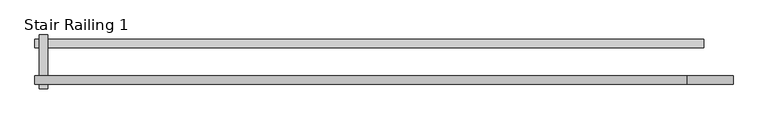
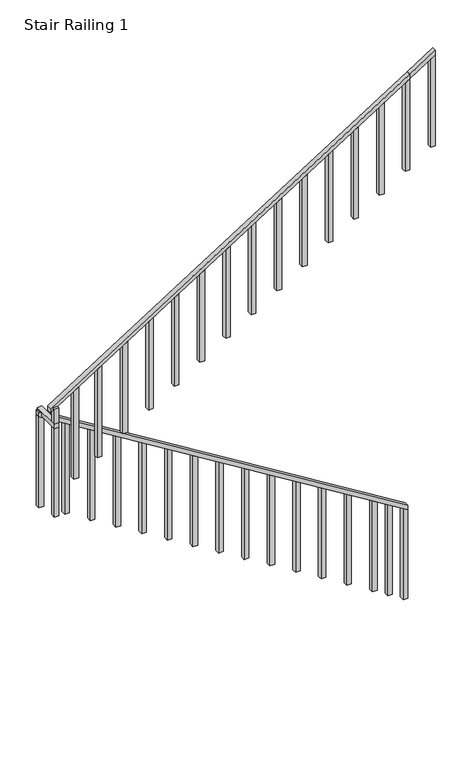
"""IFC4 building model written with IfcOpenShell, lengths in millimetres: railing geometry, Stair Railing 1."""

from ifc_helpers import new_model, si_unit, frame, origin, place, context, project, spatial, polyline, outline, extrude, source, transform, mapped, element, save


def stair_railing_1_a5e15ff2(model_context):
    return source(origin(), model_context, "Body", "SweptSolid", [
        extrude(outline(polyline([(3721.5096774, -66070.520296), (3670.7096774, -66070.520296), (1192.9806452, -62054.8461136), (1243.7806452, -62054.8461136), (3721.5096774, -66070.520296)])), frame((0.0, 32657.381749, 0.0), z_axis=(0.0, 1.0, 0.0), x_axis=(0.0, 0.0, 1.0)), (0.0, 0.0, 1.0), 50.8),
        extrude(outline(polyline([(1224.3249797, -62105.6461136), (176.9806452, -62105.6461136), (176.9806452, -62054.8461136), (1192.9806452, -62054.8461136), (1224.3249797, -62105.6461136)])), frame((0.0, 32657.381749, 0.0), z_axis=(0.0, 1.0, 0.0), x_axis=(0.0, 0.0, 1.0)), (0.0, 0.0, 1.0), 50.8),
        extrude(outline(polyline([(1326.95737, -62271.9832048), (279.6130355, -62271.9832048), (279.6130355, -62221.1832048), (1295.6130355, -62221.1832048), (1326.95737, -62271.9832048)])), frame((0.0, 32657.381749, 0.0), z_axis=(0.0, 1.0, 0.0), x_axis=(0.0, 0.0, 1.0)), (0.0, 0.0, 1.0), 50.8),
        extrude(outline(polyline([(1429.5897603, -62438.320296), (382.2454257, -62438.320296), (382.2454257, -62387.520296), (1398.2454257, -62387.520296), (1429.5897603, -62438.320296)])), frame((0.0, 32657.381749, 0.0), z_axis=(0.0, 1.0, 0.0), x_axis=(0.0, 0.0, 1.0)), (0.0, 0.0, 1.0), 50.8),
        extrude(outline(polyline([(1601.9836, -62717.720296), (554.6392655, -62717.720296), (554.6392655, -62666.920296), (1570.6392655, -62666.920296), (1601.9836, -62717.720296)])), frame((0.0, 32657.381749, 0.0), z_axis=(0.0, 1.0, 0.0), x_axis=(0.0, 0.0, 1.0)), (0.0, 0.0, 1.0), 50.8),
        extrude(outline(polyline([(1774.3774398, -62997.120296), (727.0331053, -62997.120296), (727.0331053, -62946.320296), (1743.0331053, -62946.320296), (1774.3774398, -62997.120296)])), frame((0.0, 32657.381749, 0.0), z_axis=(0.0, 1.0, 0.0), x_axis=(0.0, 0.0, 1.0)), (0.0, 0.0, 1.0), 50.8),
        extrude(outline(polyline([(1946.7712796, -63276.520296), (899.4269451, -63276.520296), (899.4269451, -63225.720296), (1915.4269451, -63225.720296), (1946.7712796, -63276.520296)])), frame((0.0, 32657.381749, 0.0), z_axis=(0.0, 1.0, 0.0), x_axis=(0.0, 0.0, 1.0)), (0.0, 0.0, 1.0), 50.8),
        extrude(outline(polyline([(2119.1651194, -63555.920296), (1071.8207849, -63555.920296), (1071.8207849, -63505.120296), (2087.8207849, -63505.120296), (2119.1651194, -63555.920296)])), frame((0.0, 32657.381749, 0.0), z_axis=(0.0, 1.0, 0.0), x_axis=(0.0, 0.0, 1.0)), (0.0, 0.0, 1.0), 50.8),
        extrude(outline(polyline([(2291.5589592, -63835.320296), (1244.2146247, -63835.320296), (1244.2146247, -63784.520296), (2260.2146247, -63784.520296), (2291.5589592, -63835.320296)])), frame((0.0, 32657.381749, 0.0), z_axis=(0.0, 1.0, 0.0), x_axis=(0.0, 0.0, 1.0)), (0.0, 0.0, 1.0), 50.8),
        extrude(outline(polyline([(2463.9527989, -64114.720296), (1416.6084644, -64114.720296), (1416.6084644, -64063.920296), (2432.6084644, -64063.920296), (2463.9527989, -64114.720296)])), frame((0.0, 32657.381749, 0.0), z_axis=(0.0, 1.0, 0.0), x_axis=(0.0, 0.0, 1.0)), (0.0, 0.0, 1.0), 50.8),
        extrude(outline(polyline([(2636.3466387, -64394.120296), (1589.0023042, -64394.120296), (1589.0023042, -64343.320296), (2605.0023042, -64343.320296), (2636.3466387, -64394.120296)])), frame((0.0, 32657.381749, 0.0), z_axis=(0.0, 1.0, 0.0), x_axis=(0.0, 0.0, 1.0)), (0.0, 0.0, 1.0), 50.8),
        extrude(outline(polyline([(2808.7404785, -64673.520296), (1761.396144, -64673.520296), (1761.396144, -64622.720296), (2777.396144, -64622.720296), (2808.7404785, -64673.520296)])), frame((0.0, 32657.381749, 0.0), z_axis=(0.0, 1.0, 0.0), x_axis=(0.0, 0.0, 1.0)), (0.0, 0.0, 1.0), 50.8),
        extrude(outline(polyline([(2981.1343183, -64952.920296), (1933.7899838, -64952.920296), (1933.7899838, -64902.120296), (2949.7899838, -64902.120296), (2981.1343183, -64952.920296)])), frame((0.0, 32657.381749, 0.0), z_axis=(0.0, 1.0, 0.0), x_axis=(0.0, 0.0, 1.0)), (0.0, 0.0, 1.0), 50.8),
        extrude(outline(polyline([(3153.5281581, -65232.320296), (2106.1838236, -65232.320296), (2106.1838236, -65181.520296), (3122.1838236, -65181.520296), (3153.5281581, -65232.320296)])), frame((0.0, 32657.381749, 0.0), z_axis=(0.0, 1.0, 0.0), x_axis=(0.0, 0.0, 1.0)), (0.0, 0.0, 1.0), 50.8),
        extrude(outline(polyline([(3325.9219979, -65511.720296), (2278.5776633, -65511.720296), (2278.5776633, -65460.920296), (3294.5776633, -65460.920296), (3325.9219979, -65511.720296)])), frame((0.0, 32657.381749, 0.0), z_axis=(0.0, 1.0, 0.0), x_axis=(0.0, 0.0, 1.0)), (0.0, 0.0, 1.0), 50.8),
        extrude(outline(polyline([(3498.3158376, -65791.120296), (2450.9715031, -65791.120296), (2450.9715031, -65740.320296), (3466.9715031, -65740.320296), (3498.3158376, -65791.120296)])), frame((0.0, 32657.381749, 0.0), z_axis=(0.0, 1.0, 0.0), x_axis=(0.0, 0.0, 1.0)), (0.0, 0.0, 1.0), 50.8),
        extrude(outline(polyline([(3670.7096774, -66070.520296), (2623.3653429, -66070.520296), (2623.3653429, -66019.720296), (3639.3653429, -66019.720296), (3670.7096774, -66070.520296)])), frame((0.0, 32657.381749, 0.0), z_axis=(0.0, 1.0, 0.0), x_axis=(0.0, 0.0, 1.0)), (0.0, 0.0, 1.0), 50.8),
        extrude(outline(polyline([(-65994.320296, 32412.2982705), (-66045.120296, 32412.2982705), (-66045.120296, 32733.581749), (-65994.320296, 32733.581749), (-65994.320296, 32412.2982705)])), frame((0.0, 0.0, 3670.7096774), z_axis=(0.0, 0.0, 1.0), x_axis=(1.0, 0.0, 0.0)), (0.0, 0.0, 1.0), 50.8),
        extrude(outline(polyline([(-66045.120296, 32463.0982705), (-65994.320296, 32463.0982705), (-65994.320296, 32412.2982705), (-66045.120296, 32412.2982705), (-66045.120296, 32463.0982705)])), frame((0.0, 0.0, 2654.7096774), z_axis=(0.0, 0.0, 1.0), x_axis=(1.0, 0.0, 0.0)), (0.0, 0.0, 1.0), 1243.7806452),
        extrude(outline(polyline([(6325.4193548, -62158.920296), (6376.2193548, -62158.920296), (3898.4903226, -66070.520296), (3847.6903226, -66070.520296), (6325.4193548, -62158.920296)])), frame((0.0, 32437.6982705, 0.0), z_axis=(0.0, 1.0, 0.0), x_axis=(0.0, 0.0, 1.0)), (0.0, 0.0, 1.0), 50.8),
        extrude(outline(polyline([(4008.5818182, -65816.520296), (2992.5818182, -65816.520296), (2992.5818182, -65765.720296), (4040.7601173, -65765.720296), (4008.5818182, -65816.520296)])), frame((0.0, 32437.6982705, 0.0), z_axis=(0.0, 1.0, 0.0), x_axis=(0.0, 0.0, 1.0)), (0.0, 0.0, 1.0), 50.8),
        extrude(outline(polyline([(4169.4733138, -65562.520296), (3153.4733138, -65562.520296), (3153.4733138, -65511.720296), (4201.6516129, -65511.720296), (4169.4733138, -65562.520296)])), frame((0.0, 32437.6982705, 0.0), z_axis=(0.0, 1.0, 0.0), x_axis=(0.0, 0.0, 1.0)), (0.0, 0.0, 1.0), 50.8),
        extrude(outline(polyline([(4346.4539589, -65283.120296), (3330.4539589, -65283.120296), (3330.4539589, -65232.320296), (4378.6322581, -65232.320296), (4346.4539589, -65283.120296)])), frame((0.0, 32437.6982705, 0.0), z_axis=(0.0, 1.0, 0.0), x_axis=(0.0, 0.0, 1.0)), (0.0, 0.0, 1.0), 50.8),
        extrude(outline(polyline([(4523.4346041, -65003.720296), (3507.4346041, -65003.720296), (3507.4346041, -64952.920296), (4555.6129032, -64952.920296), (4523.4346041, -65003.720296)])), frame((0.0, 32437.6982705, 0.0), z_axis=(0.0, 1.0, 0.0), x_axis=(0.0, 0.0, 1.0)), (0.0, 0.0, 1.0), 50.8),
        extrude(outline(polyline([(4700.4152493, -64724.320296), (3684.4152493, -64724.320296), (3684.4152493, -64673.520296), (4732.5935484, -64673.520296), (4700.4152493, -64724.320296)])), frame((0.0, 32437.6982705, 0.0), z_axis=(0.0, 1.0, 0.0), x_axis=(0.0, 0.0, 1.0)), (0.0, 0.0, 1.0), 50.8),
        extrude(outline(polyline([(4877.3958944, -64444.920296), (3861.3958944, -64444.920296), (3861.3958944, -64394.120296), (4909.5741935, -64394.120296), (4877.3958944, -64444.920296)])), frame((0.0, 32437.6982705, 0.0), z_axis=(0.0, 1.0, 0.0), x_axis=(0.0, 0.0, 1.0)), (0.0, 0.0, 1.0), 50.8),
        extrude(outline(polyline([(5054.3765396, -64165.520296), (4038.3765396, -64165.520296), (4038.3765396, -64114.720296), (5086.5548387, -64114.720296), (5054.3765396, -64165.520296)])), frame((0.0, 32437.6982705, 0.0), z_axis=(0.0, 1.0, 0.0), x_axis=(0.0, 0.0, 1.0)), (0.0, 0.0, 1.0), 50.8),
        extrude(outline(polyline([(5231.3571848, -63886.120296), (4215.3571848, -63886.120296), (4215.3571848, -63835.320296), (5263.5354839, -63835.320296), (5231.3571848, -63886.120296)])), frame((0.0, 32437.6982705, 0.0), z_axis=(0.0, 1.0, 0.0), x_axis=(0.0, 0.0, 1.0)), (0.0, 0.0, 1.0), 50.8),
        extrude(outline(polyline([(5408.3378299, -63606.720296), (4392.3378299, -63606.720296), (4392.3378299, -63555.920296), (5440.516129, -63555.920296), (5408.3378299, -63606.720296)])), frame((0.0, 32437.6982705, 0.0), z_axis=(0.0, 1.0, 0.0), x_axis=(0.0, 0.0, 1.0)), (0.0, 0.0, 1.0), 50.8),
        extrude(outline(polyline([(5585.3184751, -63327.320296), (4569.3184751, -63327.320296), (4569.3184751, -63276.520296), (5617.4967742, -63276.520296), (5585.3184751, -63327.320296)])), frame((0.0, 32437.6982705, 0.0), z_axis=(0.0, 1.0, 0.0), x_axis=(0.0, 0.0, 1.0)), (0.0, 0.0, 1.0), 50.8),
        extrude(outline(polyline([(5762.2991202, -63047.920296), (4746.2991202, -63047.920296), (4746.2991202, -62997.120296), (5794.4774194, -62997.120296), (5762.2991202, -63047.920296)])), frame((0.0, 32437.6982705, 0.0), z_axis=(0.0, 1.0, 0.0), x_axis=(0.0, 0.0, 1.0)), (0.0, 0.0, 1.0), 50.8),
        extrude(outline(polyline([(5939.2797654, -62768.520296), (4923.2797654, -62768.520296), (4923.2797654, -62717.720296), (5971.4580645, -62717.720296), (5939.2797654, -62768.520296)])), frame((0.0, 32437.6982705, 0.0), z_axis=(0.0, 1.0, 0.0), x_axis=(0.0, 0.0, 1.0)), (0.0, 0.0, 1.0), 50.8),
        extrude(outline(polyline([(6116.2604106, -62489.120296), (5100.2604106, -62489.120296), (5100.2604106, -62438.320296), (6148.4387097, -62438.320296), (6116.2604106, -62489.120296)])), frame((0.0, 32437.6982705, 0.0), z_axis=(0.0, 1.0, 0.0), x_axis=(0.0, 0.0, 1.0)), (0.0, 0.0, 1.0), 50.8),
        extrude(outline(polyline([(6293.2410557, -62209.720296), (5277.2410557, -62209.720296), (5277.2410557, -62158.920296), (6325.4193548, -62158.920296), (6293.2410557, -62209.720296)])), frame((0.0, 32437.6982705, 0.0), z_axis=(0.0, 1.0, 0.0), x_axis=(0.0, 0.0, 1.0)), (0.0, 0.0, 1.0), 50.8),
        extrude(outline(polyline([(6502.4, -61879.520296), (6553.2, -61879.520296), (6376.2193548, -62158.920296), (6325.4193548, -62158.920296), (6502.4, -61879.520296)])), frame((0.0, 32437.6982705, 0.0), z_axis=(0.0, 1.0, 0.0), x_axis=(0.0, 0.0, 1.0)), (0.0, 0.0, 1.0), 50.8),
        extrude(outline(polyline([(6470.2217009, -61930.320296), (5454.2217009, -61930.320296), (5454.2217009, -61879.520296), (6502.4, -61879.520296), (6470.2217009, -61930.320296)])), frame((0.0, 32437.6982705, 0.0), z_axis=(0.0, 1.0, 0.0), x_axis=(0.0, 0.0, 1.0)), (0.0, 0.0, 1.0), 50.8),
    ])


if __name__ == "__main__":
    model = new_model("IFC4")
    model_context = context("Model", 3, world=origin())
    ifc_project = project(units=[si_unit("LENGTHUNIT", "METRE", prefix="MILLI")], contexts=[model_context])
    site = spatial("IfcSite", under=ifc_project)
    building = spatial("IfcBuilding", under=site)
    placement = place(None, origin())
    stair_railing_1_shape = stair_railing_1_a5e15ff2(model_context)
    element("IfcRailing", 1, ObjectType="Stair Railing 1", at=placement, inside=building, context=model_context, shape_type="MappedRepresentation", body=[
        mapped(stair_railing_1_shape, transform((0.0, 0.0, 0.0), x_axis=(1.0, 0.0, 0.0), y_axis=(0.0, 1.0, 0.0), z_axis=(0.0, 0.0, 1.0))),
    ])
    save(model, "model.ifc")
